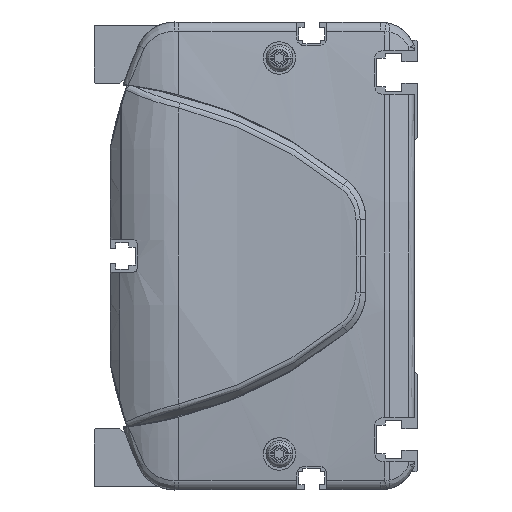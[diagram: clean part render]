
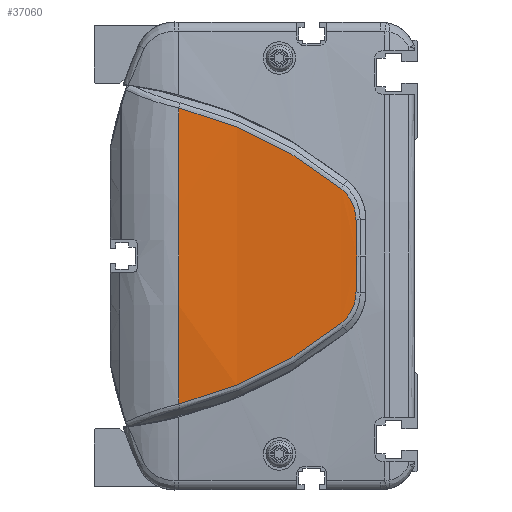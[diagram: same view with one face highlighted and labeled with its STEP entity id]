
A CAD part, left-side view. The second image highlights one B-rep face of the part: STEP entity #37060.
In plain terms, the highlighted cylindrical face has radius 500 mm (diameter 1000 mm), a partial arc.
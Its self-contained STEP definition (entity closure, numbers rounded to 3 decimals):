
#33212=CARTESIAN_POINT('',(486.,66.362,0.));
#33213=DIRECTION('',(0.,-1.,0.));
#33214=DIRECTION('',(-0.997,0.,0.082));
#33215=AXIS2_PLACEMENT_3D('',#33212,#33213,#33214);
#34153=CARTESIAN_POINT('',(-13.648,21.313,
-18.759));
#34154=CARTESIAN_POINT('',(-13.449,27.904,
-24.058));
#34155=CARTESIAN_POINT('',(-12.934,42.195,
-33.27));
#34156=CARTESIAN_POINT('',(-12.471,58.156,
-39.127));
#34157=CARTESIAN_POINT('',(-12.306,66.362,
-41.121));
#34159=CARTESIAN_POINT('',(-12.306,66.362,
41.121));
#34160=CARTESIAN_POINT('',(-12.471,58.156,
39.127));
#34161=CARTESIAN_POINT('',(-12.934,42.195,
33.27));
#34162=CARTESIAN_POINT('',(-13.449,27.904,
24.058));
#34163=CARTESIAN_POINT('',(-13.648,21.313,
18.759));
#34165=CARTESIAN_POINT('',(-13.648,21.313,
18.759));
#34166=CARTESIAN_POINT('',(-13.686,20.035,
17.736));
#34167=CARTESIAN_POINT('',(-13.779,17.936,
15.107));
#34168=CARTESIAN_POINT('',(-13.863,17.152,
11.827));
#34169=CARTESIAN_POINT('',(-13.896,17.124,
10.178));
#34171=CARTESIAN_POINT('',(-13.896,17.124,
10.178));
#34172=CARTESIAN_POINT('',(-13.92,17.107,
9.024));
#34173=CARTESIAN_POINT('',(-13.959,17.067,
6.731));
#34174=CARTESIAN_POINT('',(-13.993,16.98,
3.337));
#34175=CARTESIAN_POINT('',(-14.,16.898,
1.107));
#34176=CARTESIAN_POINT('',(-14.,16.849,
0.));
#34178=CARTESIAN_POINT('',(-14.,16.849,
0.));
#34179=CARTESIAN_POINT('',(-14.,16.898,
-1.107));
#34180=CARTESIAN_POINT('',(-13.993,16.98,
-3.337));
#34181=CARTESIAN_POINT('',(-13.959,17.067,
-6.73));
#34182=CARTESIAN_POINT('',(-13.92,17.107,
-9.026));
#34183=CARTESIAN_POINT('',(-13.896,17.124,
-10.18));
#34185=CARTESIAN_POINT('',(-13.896,17.124,
-10.18));
#34186=CARTESIAN_POINT('',(-13.863,17.152,
-11.828));
#34187=CARTESIAN_POINT('',(-13.779,17.937,
-15.109));
#34188=CARTESIAN_POINT('',(-13.686,20.035,
-17.736));
#34189=CARTESIAN_POINT('',(-13.648,21.313,
-18.759));
#34877=VERTEX_POINT('',#34153);
#34878=VERTEX_POINT('',#34157);
#34879=CARTESIAN_POINT('',(-12.306,66.362,
41.121));
#34880=VERTEX_POINT('',#34879);
#34881=VERTEX_POINT('',#34163);
#34882=VERTEX_POINT('',#34169);
#34883=VERTEX_POINT('',#34176);
#34884=VERTEX_POINT('',#34183);
#37041=CARTESIAN_POINT('',(486.,8.006,0.));
#37042=DIRECTION('',(0.,1.,0.));
#37043=DIRECTION('',(1.,0.,0.));
#37044=AXIS2_PLACEMENT_3D('',#37041,#37042,#37043);
#37045=CYLINDRICAL_SURFACE('',#37044,500.);
#37047=ORIENTED_EDGE('',*,*,#37046,.T.);
#37048=ORIENTED_EDGE('',*,*,#35655,.F.);
#37050=ORIENTED_EDGE('',*,*,#37049,.T.);
#37052=ORIENTED_EDGE('',*,*,#37051,.T.);
#37054=ORIENTED_EDGE('',*,*,#37053,.T.);
#37056=ORIENTED_EDGE('',*,*,#37055,.T.);
#37057=ORIENTED_EDGE('',*,*,#37031,.T.);
#37058=EDGE_LOOP('',(#37047,#37048,#37050,#37052,#37054,#37056,#37057));
#37059=FACE_OUTER_BOUND('',#37058,.F.);
#37060=ADVANCED_FACE('',(#37059),#37045,.T.);
#33216=CIRCLE('',#33215,500.);
#34158=B_SPLINE_CURVE_WITH_KNOTS('',3,(#34153,#34154,#34155,#34156,#34157),
.UNSPECIFIED.,.F.,.F.,(4,1,4),(0.,0.5,1.),.UNSPECIFIED.);
#34164=B_SPLINE_CURVE_WITH_KNOTS('',3,(#34159,#34160,#34161,#34162,#34163),
.UNSPECIFIED.,.F.,.F.,(4,1,4),(0.,0.5,1.),.UNSPECIFIED.);
#34170=B_SPLINE_CURVE_WITH_KNOTS('',3,(#34165,#34166,#34167,#34168,#34169),
.UNSPECIFIED.,.F.,.F.,(4,1,4),(0.,0.5,1.),.UNSPECIFIED.);
#34177=B_SPLINE_CURVE_WITH_KNOTS('',3,(#34171,#34172,#34173,#34174,#34175,
#34176),.UNSPECIFIED.,.F.,.F.,(4,1,1,4),(0.,0.333,
0.667,1.),.UNSPECIFIED.);
#34184=B_SPLINE_CURVE_WITH_KNOTS('',3,(#34178,#34179,#34180,#34181,#34182,
#34183),.UNSPECIFIED.,.F.,.F.,(4,1,1,4),(0.,0.333,
0.667,1.),.UNSPECIFIED.);
#34190=B_SPLINE_CURVE_WITH_KNOTS('',3,(#34185,#34186,#34187,#34188,#34189),
.UNSPECIFIED.,.F.,.F.,(4,1,4),(0.,0.5,1.),.UNSPECIFIED.);
#35655=EDGE_CURVE('',#34880,#34878,#33216,.T.);
#37031=EDGE_CURVE('',#34884,#34877,#34190,.T.);
#37046=EDGE_CURVE('',#34877,#34878,#34158,.T.);
#37049=EDGE_CURVE('',#34880,#34881,#34164,.T.);
#37051=EDGE_CURVE('',#34881,#34882,#34170,.T.);
#37053=EDGE_CURVE('',#34882,#34883,#34177,.T.);
#37055=EDGE_CURVE('',#34883,#34884,#34184,.T.);
